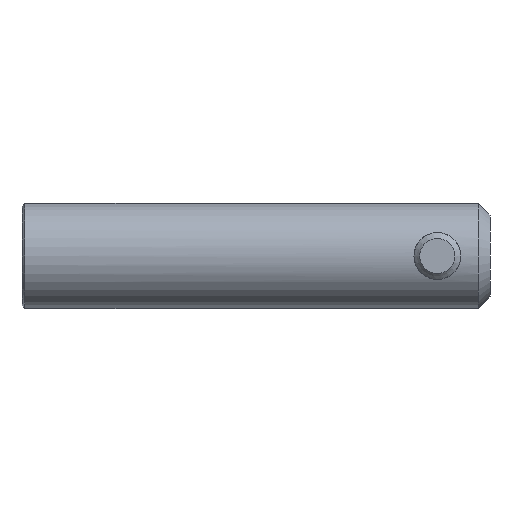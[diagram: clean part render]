
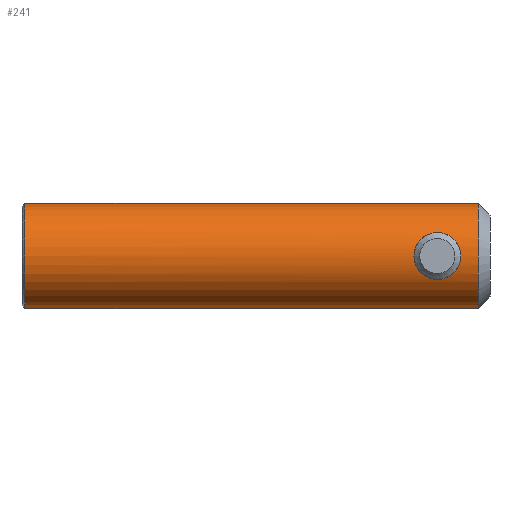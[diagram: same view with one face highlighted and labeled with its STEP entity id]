
A CAD part, left-side view. The second image highlights one B-rep face of the part: STEP entity #241.
In plain terms, the highlighted cylindrical face has radius 9 mm (diameter 18 mm), a full revolution.
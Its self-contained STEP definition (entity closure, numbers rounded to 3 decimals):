
#24=FACE_BOUND('',#52,.T.);
#26=B_SPLINE_CURVE_WITH_KNOTS('',3,(#381,#382,#383,#384,#385,#386,#387,
#388,#389,#390),.UNSPECIFIED.,.F.,.F.,(4,2,2,2,4),(1.836,1.989,
2.142,2.295,2.449),.UNSPECIFIED.);
#27=B_SPLINE_CURVE_WITH_KNOTS('',3,(#392,#393,#394,#395,#396,#397,#398,
#399,#400,#401),.UNSPECIFIED.,.F.,.F.,(4,2,2,2,4),(0.,0.153,
0.306,0.459,0.612),.UNSPECIFIED.);
#28=B_SPLINE_CURVE_WITH_KNOTS('',3,(#405,#406,#407,#408,#409,#410,#411,
#412,#413,#414,#415,#416,#417,#418,#419,#420,#421,#422),.UNSPECIFIED.,.F.,
 .F.,(4,2,2,2,2,2,2,2,4),(0.612,0.765,0.918,
1.071,1.224,1.377,1.531,1.684,
1.836),.UNSPECIFIED.);
#29=B_SPLINE_CURVE_WITH_KNOTS('',3,(#425,#426,#427,#428,#429,#430,#431,
#432,#433,#434),.UNSPECIFIED.,.F.,.F.,(4,2,2,2,4),(0.,0.153,
0.306,0.459,0.612),.UNSPECIFIED.);
#30=B_SPLINE_CURVE_WITH_KNOTS('',3,(#435,#436,#437,#438,#439,#440,#441,
#442,#443,#444,#445,#446,#447,#448,#449,#450,#451,#452,#453,#454,#455,#456,
#457,#458,#459,#460),.UNSPECIFIED.,.F.,.F.,(4,2,2,2,2,2,2,2,2,2,2,2,4),
(0.612,0.765,0.918,1.071,
1.224,1.377,1.531,1.684,1.836,
1.989,2.142,2.295,2.449),
 .UNSPECIFIED.);
#31=CYLINDRICAL_SURFACE('',#279,9.);
#35=FACE_OUTER_BOUND('',#51,.T.);
#51=EDGE_LOOP('',(#174,#175,#176,#177,#178,#179,#180,#181,#182));
#52=EDGE_LOOP('',(#183,#184));
#69=LINE('',#379,#89);
#70=LINE('',#403,#90);
#89=VECTOR('',#311,9.);
#90=VECTOR('',#312,9.);
#109=CIRCLE('',#278,9.);
#110=CIRCLE('',#280,9.);
#117=VERTEX_POINT('',#374);
#118=VERTEX_POINT('',#378);
#119=VERTEX_POINT('',#380);
#120=VERTEX_POINT('',#391);
#121=VERTEX_POINT('',#402);
#122=VERTEX_POINT('',#423);
#123=VERTEX_POINT('',#424);
#139=EDGE_CURVE('',#117,#117,#109,.T.);
#140=EDGE_CURVE('',#117,#118,#69,.T.);
#141=EDGE_CURVE('',#118,#119,#26,.T.);
#142=EDGE_CURVE('',#119,#120,#27,.T.);
#143=EDGE_CURVE('',#120,#121,#70,.T.);
#144=EDGE_CURVE('',#121,#121,#110,.T.);
#145=EDGE_CURVE('',#120,#118,#28,.T.);
#146=EDGE_CURVE('',#122,#123,#29,.T.);
#147=EDGE_CURVE('',#123,#122,#30,.T.);
#174=ORIENTED_EDGE('',*,*,#139,.F.);
#175=ORIENTED_EDGE('',*,*,#140,.T.);
#176=ORIENTED_EDGE('',*,*,#141,.T.);
#177=ORIENTED_EDGE('',*,*,#142,.T.);
#178=ORIENTED_EDGE('',*,*,#143,.T.);
#179=ORIENTED_EDGE('',*,*,#144,.F.);
#180=ORIENTED_EDGE('',*,*,#143,.F.);
#181=ORIENTED_EDGE('',*,*,#145,.T.);
#182=ORIENTED_EDGE('',*,*,#140,.F.);
#183=ORIENTED_EDGE('',*,*,#146,.T.);
#184=ORIENTED_EDGE('',*,*,#147,.T.);
#241=ADVANCED_FACE('',(#35,#24),#31,.T.);
#278=AXIS2_PLACEMENT_3D('',#376,#307,#308);
#279=AXIS2_PLACEMENT_3D('',#377,#309,#310);
#280=AXIS2_PLACEMENT_3D('',#404,#313,#314);
#307=DIRECTION('center_axis',(0.,1.,0.));
#308=DIRECTION('ref_axis',(-1.,0.,0.));
#309=DIRECTION('center_axis',(0.,1.,0.));
#310=DIRECTION('ref_axis',(-1.,0.,0.));
#311=DIRECTION('',(0.,-1.,0.));
#312=DIRECTION('',(0.,-1.,0.));
#313=DIRECTION('center_axis',(0.,-1.,0.));
#314=DIRECTION('ref_axis',(-1.,0.,0.));
#374=CARTESIAN_POINT('',(9.,79.5,0.));
#376=CARTESIAN_POINT('Origin',(0.,79.5,0.));
#377=CARTESIAN_POINT('Origin',(0.,0.,0.));
#378=CARTESIAN_POINT('',(9.,13.,0.));
#379=CARTESIAN_POINT('',(9.,0.,0.));
#380=CARTESIAN_POINT('',(8.062,9.,-4.));
#381=CARTESIAN_POINT('Ctrl Pts',(9.,13.,0.));
#382=CARTESIAN_POINT('Ctrl Pts',(9.,13.,-0.51));
#383=CARTESIAN_POINT('Ctrl Pts',(8.953,12.897,-1.049));
#384=CARTESIAN_POINT('Ctrl Pts',(8.782,12.486,-2.032));
#385=CARTESIAN_POINT('Ctrl Pts',(8.66,12.179,-2.477));
#386=CARTESIAN_POINT('Ctrl Pts',(8.428,11.477,-3.18));
#387=CARTESIAN_POINT('Ctrl Pts',(8.3,11.032,-3.486));
#388=CARTESIAN_POINT('Ctrl Pts',(8.116,10.049,-3.897));
#389=CARTESIAN_POINT('Ctrl Pts',(8.062,9.511,-4.));
#390=CARTESIAN_POINT('Ctrl Pts',(8.062,9.,-4.));
#391=CARTESIAN_POINT('',(9.,5.,0.));
#392=CARTESIAN_POINT('Ctrl Pts',(8.062,9.,-4.));
#393=CARTESIAN_POINT('Ctrl Pts',(8.062,8.489,-4.));
#394=CARTESIAN_POINT('Ctrl Pts',(8.116,7.951,-3.897));
#395=CARTESIAN_POINT('Ctrl Pts',(8.3,6.968,-3.486));
#396=CARTESIAN_POINT('Ctrl Pts',(8.428,6.523,-3.18));
#397=CARTESIAN_POINT('Ctrl Pts',(8.66,5.821,-2.477));
#398=CARTESIAN_POINT('Ctrl Pts',(8.782,5.514,-2.032));
#399=CARTESIAN_POINT('Ctrl Pts',(8.953,5.103,-1.049));
#400=CARTESIAN_POINT('Ctrl Pts',(9.,5.,-0.51));
#401=CARTESIAN_POINT('Ctrl Pts',(9.,5.,0.));
#402=CARTESIAN_POINT('',(9.,2.,0.));
#403=CARTESIAN_POINT('',(9.,0.,0.));
#404=CARTESIAN_POINT('Origin',(0.,2.,0.));
#405=CARTESIAN_POINT('Ctrl Pts',(9.,5.,0.));
#406=CARTESIAN_POINT('Ctrl Pts',(9.,5.,0.51));
#407=CARTESIAN_POINT('Ctrl Pts',(8.953,5.103,1.049));
#408=CARTESIAN_POINT('Ctrl Pts',(8.782,5.514,2.032));
#409=CARTESIAN_POINT('Ctrl Pts',(8.66,5.821,2.477));
#410=CARTESIAN_POINT('Ctrl Pts',(8.428,6.523,3.18));
#411=CARTESIAN_POINT('Ctrl Pts',(8.3,6.968,3.486));
#412=CARTESIAN_POINT('Ctrl Pts',(8.116,7.951,3.897));
#413=CARTESIAN_POINT('Ctrl Pts',(8.062,8.489,4.));
#414=CARTESIAN_POINT('Ctrl Pts',(8.062,9.511,4.));
#415=CARTESIAN_POINT('Ctrl Pts',(8.116,10.049,3.897));
#416=CARTESIAN_POINT('Ctrl Pts',(8.3,11.032,3.486));
#417=CARTESIAN_POINT('Ctrl Pts',(8.428,11.477,3.18));
#418=CARTESIAN_POINT('Ctrl Pts',(8.66,12.179,2.477));
#419=CARTESIAN_POINT('Ctrl Pts',(8.782,12.486,2.032));
#420=CARTESIAN_POINT('Ctrl Pts',(8.953,12.897,1.049));
#421=CARTESIAN_POINT('Ctrl Pts',(9.,13.,0.51));
#422=CARTESIAN_POINT('Ctrl Pts',(9.,13.,0.));
#423=CARTESIAN_POINT('',(-8.062,9.,-4.));
#424=CARTESIAN_POINT('',(-9.,13.,0.));
#425=CARTESIAN_POINT('Ctrl Pts',(-8.062,9.,-4.));
#426=CARTESIAN_POINT('Ctrl Pts',(-8.062,9.511,-4.));
#427=CARTESIAN_POINT('Ctrl Pts',(-8.116,10.049,-3.897));
#428=CARTESIAN_POINT('Ctrl Pts',(-8.3,11.032,-3.486));
#429=CARTESIAN_POINT('Ctrl Pts',(-8.428,11.477,-3.18));
#430=CARTESIAN_POINT('Ctrl Pts',(-8.66,12.179,-2.477));
#431=CARTESIAN_POINT('Ctrl Pts',(-8.782,12.486,-2.032));
#432=CARTESIAN_POINT('Ctrl Pts',(-8.953,12.897,-1.049));
#433=CARTESIAN_POINT('Ctrl Pts',(-9.,13.,-0.51));
#434=CARTESIAN_POINT('Ctrl Pts',(-9.,13.,0.));
#435=CARTESIAN_POINT('Ctrl Pts',(-9.,13.,0.));
#436=CARTESIAN_POINT('Ctrl Pts',(-9.,13.,0.51));
#437=CARTESIAN_POINT('Ctrl Pts',(-8.953,12.897,1.049));
#438=CARTESIAN_POINT('Ctrl Pts',(-8.782,12.486,2.032));
#439=CARTESIAN_POINT('Ctrl Pts',(-8.66,12.179,2.477));
#440=CARTESIAN_POINT('Ctrl Pts',(-8.428,11.477,3.18));
#441=CARTESIAN_POINT('Ctrl Pts',(-8.3,11.032,3.486));
#442=CARTESIAN_POINT('Ctrl Pts',(-8.116,10.049,3.897));
#443=CARTESIAN_POINT('Ctrl Pts',(-8.062,9.511,4.));
#444=CARTESIAN_POINT('Ctrl Pts',(-8.062,8.489,4.));
#445=CARTESIAN_POINT('Ctrl Pts',(-8.116,7.951,3.897));
#446=CARTESIAN_POINT('Ctrl Pts',(-8.3,6.968,3.486));
#447=CARTESIAN_POINT('Ctrl Pts',(-8.428,6.523,3.18));
#448=CARTESIAN_POINT('Ctrl Pts',(-8.66,5.821,2.477));
#449=CARTESIAN_POINT('Ctrl Pts',(-8.782,5.514,2.032));
#450=CARTESIAN_POINT('Ctrl Pts',(-8.953,5.103,1.049));
#451=CARTESIAN_POINT('Ctrl Pts',(-9.,5.,0.51));
#452=CARTESIAN_POINT('Ctrl Pts',(-9.,5.,-0.51));
#453=CARTESIAN_POINT('Ctrl Pts',(-8.953,5.103,-1.049));
#454=CARTESIAN_POINT('Ctrl Pts',(-8.782,5.514,-2.032));
#455=CARTESIAN_POINT('Ctrl Pts',(-8.66,5.821,-2.477));
#456=CARTESIAN_POINT('Ctrl Pts',(-8.428,6.523,-3.18));
#457=CARTESIAN_POINT('Ctrl Pts',(-8.3,6.968,-3.486));
#458=CARTESIAN_POINT('Ctrl Pts',(-8.116,7.951,-3.897));
#459=CARTESIAN_POINT('Ctrl Pts',(-8.062,8.489,-4.));
#460=CARTESIAN_POINT('Ctrl Pts',(-8.062,9.,-4.));
